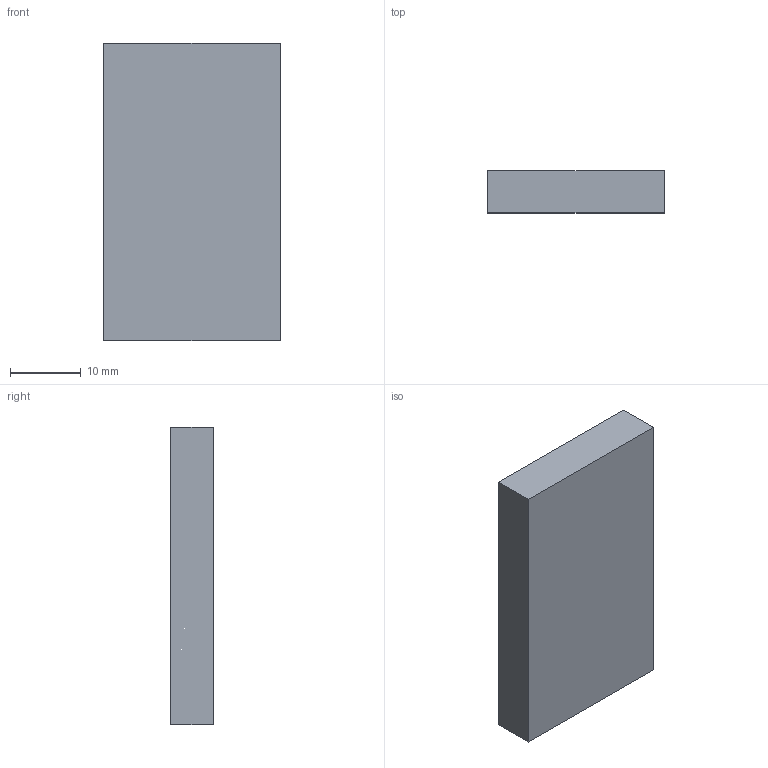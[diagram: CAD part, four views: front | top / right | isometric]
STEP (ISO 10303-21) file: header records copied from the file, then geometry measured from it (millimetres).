
FILE_DESCRIPTION(('Open CASCADE Model'),'2;1');
FILE_NAME('Open CASCADE Shape Model','2026-10-28T04:26:17',('Author'),( 'Open CASCADE'),'Open CASCADE STEP processor 7.8','Open CASCADE 7.8' ,'Unknown');
FILE_SCHEMA(('AUTOMOTIVE_DESIGN { 1 0 10303 214 1 1 1 1 }'));
Length unit declared in the file: millimetre
Products named in the file (1): Open CASCADE STEP translator 7.8 5
Bounding box: 25 x 6 x 42 mm (x, y, z)
Volume: 6300 mm3; surface area: 2904 mm2
Topology: 1 solids, 1 shells, 6 faces, 12 edges, 8 vertices
Faces by surface type: plane 6
Entity records: 322 total; most frequent: CARTESIAN_POINT 51, DIRECTION 50, LINE 36, VECTOR 36, ORIENTED_EDGE 24, PCURVE 24, DEFINITIONAL_REPRESENTATION 24, EDGE_CURVE 12
